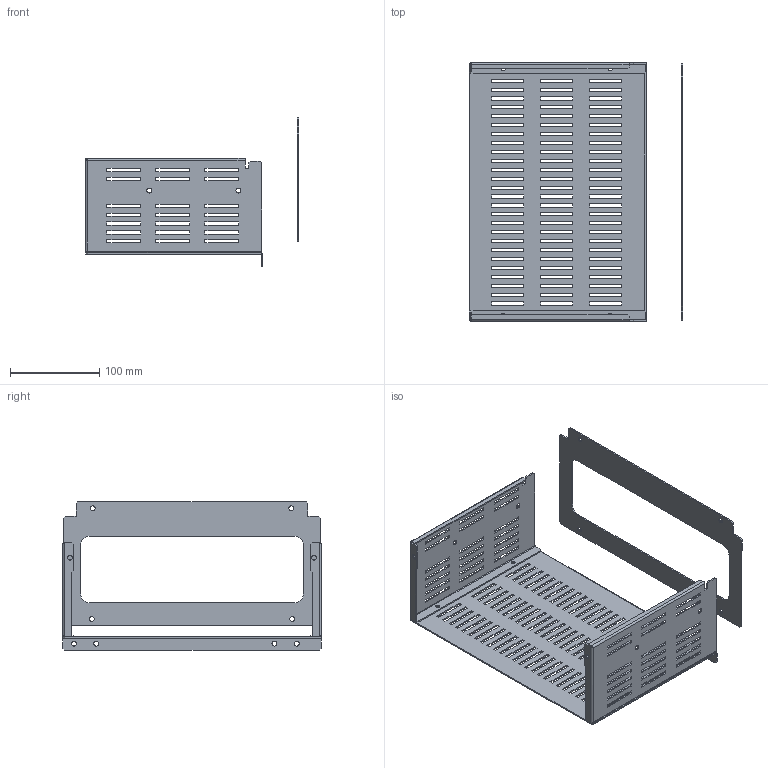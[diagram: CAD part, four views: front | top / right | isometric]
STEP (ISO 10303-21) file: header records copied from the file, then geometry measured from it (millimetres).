
FILE_DESCRIPTION(('CAx-IF Rec.Pracs.---Model Styling and Organization---1.2---2011-12-15','CAx-IF Rec.Pracs.---Geometric and Assembly Validation Properties---4.1---2014-06-16','CAx-IF Rec.Pracs.---PMI Polyline Presentation---2.0---2013-05-24'),'2;1');
FILE_NAME('R5M2W6MST3C.stp','2021-05-05T13:07:48+03:00',(''),(''),'STEP Interface 4.4 by CT CoreTechnologie','3D_Evolution4.4 by CT CoreTechnologie','');
FILE_SCHEMA(('AUTOMOTIVE_DESIGN { 1 0 10303 214 1 1 1 1 }'));
Length unit declared in the file: millimetre
Products named in the file (5): R5M2W6MST3C; RB.1263.00.00.0_-01; RB.1263.00.00.0_-00; RB.1458.00.00.0_-04; RB.1459.00.00.0_-04
Assembly tree (4 placements, depth 2):
  R5M2W6MST3C
    RB.1263.00.00.0_-01
    RB.1263.00.00.0_-00
    RB.1458.00.00.0_-04
    RB.1459.00.00.0_-04
Bounding box: 239 x 290 x 166.75 mm (x, y, z)
Surface area: 251180.6 mm2 (no closed solid volume)
Topology: 0 solids, 4 shells, 650 faces, 1880 edges, 1238 vertices
Faces by surface type: plane 580, cylinder 62, bspline 8
Entity records: 21971 total; most frequent: CARTESIAN_POINT 4026, ORIENTED_EDGE 3760, DIRECTION 3287, EDGE_CURVE 1880, VECTOR 1753, LINE 1753, VERTEX_POINT 1238, EDGE_LOOP 936
